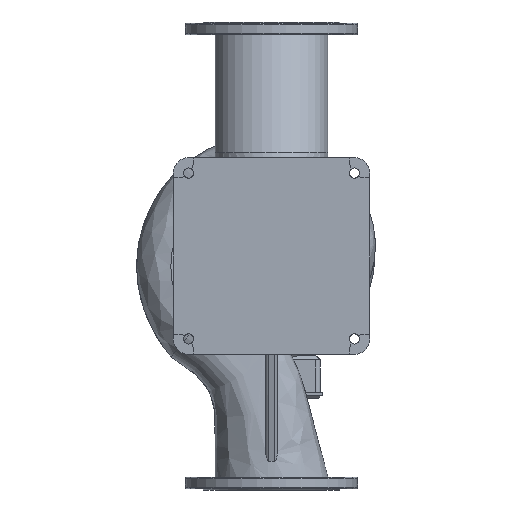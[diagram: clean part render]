
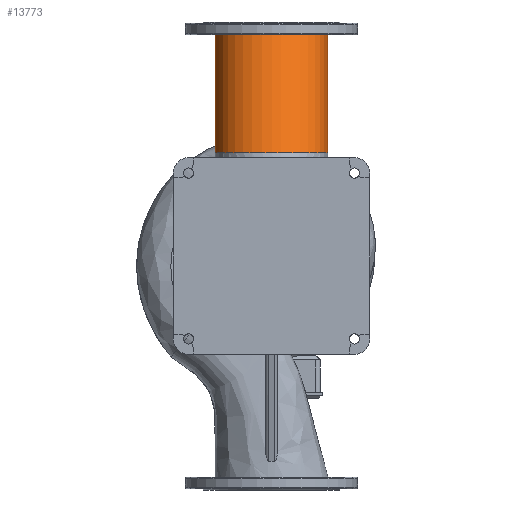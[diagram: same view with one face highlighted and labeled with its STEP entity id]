
A CAD part, front view. The second image highlights one B-rep face of the part: STEP entity #13773.
In plain terms, the highlighted free-form (B-spline) face has degree [3, 1] with [7, 2] control points.
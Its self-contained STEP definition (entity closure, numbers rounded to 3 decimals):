
#2295 = CARTESIAN_POINT ( 'NONE',  ( -132.5, 0., 520. ) ) ;
#3791 = CARTESIAN_POINT ( 'NONE',  ( 132.5, 265., 520. ) ) ;
#3988 = AXIS2_PLACEMENT_3D ( 'NONE', #20454, #7468, #4225 ) ;
#4153 = CARTESIAN_POINT ( 'NONE',  ( -132.5, 135.943, 243.237 ) ) ;
#4225 = DIRECTION ( 'NONE',  ( -1., 0., 0. ) ) ;
#4540 = VERTEX_POINT ( 'NONE', #16308 ) ;
#4997 = CARTESIAN_POINT ( 'NONE',  ( -132.5, -129.057, 243.237 ) ) ;
#5883 = B_SPLINE_CURVE_WITH_KNOTS ( 'NONE', 1,
 ( #8377, #16859 ),
 .UNSPECIFIED., .F., .F.,
 ( 2, 2 ),
 ( 0., 1. ),
 .UNSPECIFIED. ) ;
#6191 = CIRCLE ( 'NONE', #26914, 132.5 ) ;
#6510 = CARTESIAN_POINT ( 'NONE',  ( -132.5, 0., 520. ) ) ;
#6852 = CARTESIAN_POINT ( 'NONE',  ( 132.5, 135.943, 243.237 ) ) ;
#7412 = ORIENTED_EDGE ( 'NONE', *, *, #35486, .T. ) ;
#7468 = DIRECTION ( 'NONE',  ( 0., 0., -1. ) ) ;
#7693 = CARTESIAN_POINT ( 'NONE',  ( 132.5, -265., 520. ) ) ;
#8377 = CARTESIAN_POINT ( 'NONE',  ( 132.5, -129.057, 243.237 ) ) ;
#9555 = EDGE_CURVE ( 'NONE', #29597, #10003, #6191, .T. ) ;
#10003 = VERTEX_POINT ( 'NONE', #20178 ) ;
#10061 = CARTESIAN_POINT ( 'NONE',  ( -132.5, -129.057, 243.237 ) ) ;
#11134 = ORIENTED_EDGE ( 'NONE', *, *, #9555, .F. ) ;
#13773 = ADVANCED_FACE ( 'NONE', ( #20545 ), #32958, .F. ) ;
#15131 = CARTESIAN_POINT ( 'NONE',  ( 132.5, -129.057, 243.237 ) ) ;
#16308 = CARTESIAN_POINT ( 'NONE',  ( -132.5, 0., 520. ) ) ;
#16859 = CARTESIAN_POINT ( 'NONE',  ( 132.5, 0., 520. ) ) ;
#17585 = CARTESIAN_POINT ( 'NONE',  ( 132.5, -129.057, 243.237 ) ) ;
#18692 = CARTESIAN_POINT ( 'NONE',  ( -132.5, -394.057, 243.237 ) ) ;
#20178 = CARTESIAN_POINT ( 'NONE',  ( -132.5, -129.057, 243.237 ) ) ;
#20454 = CARTESIAN_POINT ( 'NONE',  ( 0., 0., 520. ) ) ;
#20545 = FACE_OUTER_BOUND ( 'NONE', #34514, .T. ) ;
#20935 = B_SPLINE_CURVE_WITH_KNOTS ( 'NONE', 1,
 ( #10061, #32086 ),
 .UNSPECIFIED., .F., .F.,
 ( 2, 2 ),
 ( 0., 1. ),
 .UNSPECIFIED. ) ;
#23457 = DIRECTION ( 'NONE',  ( -1., 0., 0. ) ) ;
#26914 = AXIS2_PLACEMENT_3D ( 'NONE', #33766, #31250, #23457 ) ;
#27215 = CARTESIAN_POINT ( 'NONE',  ( 132.5, 0., 520. ) ) ;
#27610 = ORIENTED_EDGE ( 'NONE', *, *, #31518, .F. ) ;
#28508 = CARTESIAN_POINT ( 'NONE',  ( -132.5, 265., 520. ) ) ;
#29597 = VERTEX_POINT ( 'NONE', #17585 ) ;
#29705 = CARTESIAN_POINT ( 'NONE',  ( -132.5, -265., 520. ) ) ;
#31250 = DIRECTION ( 'NONE',  ( 0., 0., -1. ) ) ;
#31518 = EDGE_CURVE ( 'NONE', #10003, #4540, #20935, .T. ) ;
#31565 = CARTESIAN_POINT ( 'NONE',  ( -132.5, -129.057, 243.237 ) ) ;
#31626 = VERTEX_POINT ( 'NONE', #27215 ) ;
#31752 = CARTESIAN_POINT ( 'NONE',  ( 132.5, -394.057, 243.237 ) ) ;
#32037 = EDGE_CURVE ( 'NONE', #29597, #31626, #5883, .T. ) ;
#32086 = CARTESIAN_POINT ( 'NONE',  ( -132.5, 0., 520. ) ) ;
#32425 = CARTESIAN_POINT ( 'NONE',  ( 132.5, 0., 520. ) ) ;
#32958 =( BOUNDED_SURFACE ( )  B_SPLINE_SURFACE ( 3, 1, ( 
 ( #31565, #6510 ),
 ( #4153, #28508 ),
 ( #6852, #3791 ),
 ( #15131, #32425 ),
 ( #31752, #7693 ),
 ( #18692, #29705 ),
 ( #4997, #2295 ) ),
 .UNSPECIFIED., .T., .F., .F. ) 
 B_SPLINE_SURFACE_WITH_KNOTS ( ( 4, 3, 4 ),
 ( 2, 2 ),
 ( 0., 0.5, 1. ),
 ( 0., 1. ),
 .UNSPECIFIED. ) 
 GEOMETRIC_REPRESENTATION_ITEM ( )  RATIONAL_B_SPLINE_SURFACE ( (
 ( 1., 1.),
 ( 0.333, 0.333),
 ( 0.333, 0.333),
 ( 1., 1.),
 ( 0.333, 0.333),
 ( 0.333, 0.333),
 ( 1., 1.) ) ) 
 REPRESENTATION_ITEM ( '' )  SURFACE ( )  );
#33021 = ORIENTED_EDGE ( 'NONE', *, *, #32037, .T. ) ;
#33766 = CARTESIAN_POINT ( 'NONE',  ( 0., -129.057, 243.237 ) ) ;
#34514 = EDGE_LOOP ( 'NONE', ( #11134, #33021, #7412, #27610 ) ) ;
#35099 = CIRCLE ( 'NONE', #3988, 132.5 ) ;
#35486 = EDGE_CURVE ( 'NONE', #31626, #4540, #35099, .T. ) ;
